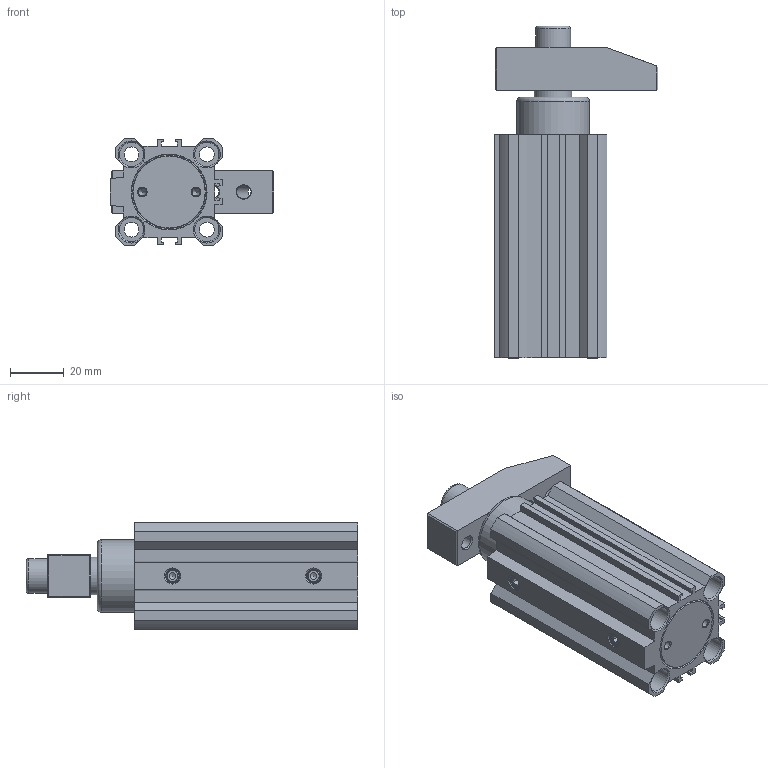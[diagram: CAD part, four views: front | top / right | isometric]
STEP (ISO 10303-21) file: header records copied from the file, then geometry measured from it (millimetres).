
FILE_DESCRIPTION(/* description */ ('STEP AP203'),/* implementation_level */ '2;1');
FILE_NAME(/* name */ 'E:\SERWER_ZAPAS\MODELE brakujace\PNEUMATIC\PB(STEP)\PBL2感应式转角缸三维图\PBL-25R_ZAMKNIETY.stp',/* time_stamp */ '2019-02-01T16:17:40+01:00',/* author */ ('Admin'),/* organization */ ('Î¢ÈíÖÐ¹ú'),/* preprocessor_version */ 'ST-DEVELOPER v17.2',/* originating_system */ 'Autodesk Inventor 2019',/* authorisation */ '');
FILE_SCHEMA (('AUTOMOTIVE_DESIGN { 1 0 10303 214 3 1 1 }'));
Length unit declared in the file: millimetre
Products named in the file (11): PBL25_ZAMKNIETY; µæÆ¬; Ç°¸Ç; »îÈû¸Ë; s¸Ë11; ±¾Ìå11; Parallel pins Unhardening Steel GB_GB_CONNECTING_PIECE_PIN_PPUS 4X24; Hexagon socket head cap screws GB_GB_FASTENER_SCREWS_HSHCS M8X25-S; ºó¸Ç11; Hex socket set screws with flat point GB_GB_FASTENER_SCREWS_HSFP M5X5
-S; Ñ¹±Û
Assembly tree (11 placements, depth 2):
  PBL25_ZAMKNIETY
    µæÆ¬
    Ç°¸Ç
    »îÈû¸Ë
    s¸Ë11
    ±¾Ìå11
    Parallel pins Unhardening Steel GB_GB_CONNECTING_PIECE_PIN_PPUS 4X24
    Hexagon socket head cap screws GB_GB_FASTENER_SCREWS_HSHCS M8X25-S
    ºó¸Ç11
    Hex socket set screws with flat point GB_GB_FASTENER_SCREWS_HSFP M5X5
-S  x2
    Ñ¹±Û
Bounding box: 61.01 x 123.5 x 40 mm (x, y, z)
Volume: 107740.8 mm3; surface area: 65026.7 mm2
Topology: 11 solids, 12 shells, 562 faces, 1560 edges, 1068 vertices
Faces by surface type: plane 181, cone 156, cylinder 149, torus 51, bspline 25
Full cylindrical faces by diameter (mm): 1 x3, 2 x1, 3 x2, 4 x4, 4.8 x2, 5 x28, 5.5 x4, 6.8 x1, 8 x30, 8.5 x1, 9 x8, 9.353 x1, 10 x4, 12.1 x2, 13 x3, 14 x2, 14.1 x3, 16 x1, 16.3 x1, 17 x1, 18.3 x1, 19 x1, 20 x2, 21 x4, 22 x2, 23 x1, 25 x9, 27 x4, 28 x2, 28.5 x2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
Entity records: 23124 total; most frequent: CARTESIAN_POINT 8810, DIRECTION 3121, ORIENTED_EDGE 2870, EDGE_CURVE 1435, AXIS2_PLACEMENT_3D 1287, VERTEX_POINT 990, CIRCLE 770, EDGE_LOOP 605
